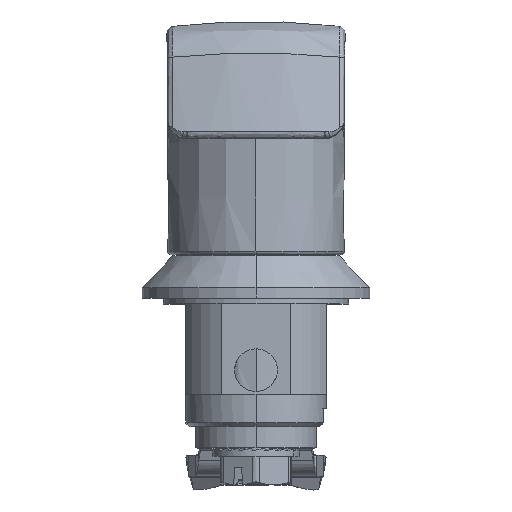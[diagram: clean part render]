
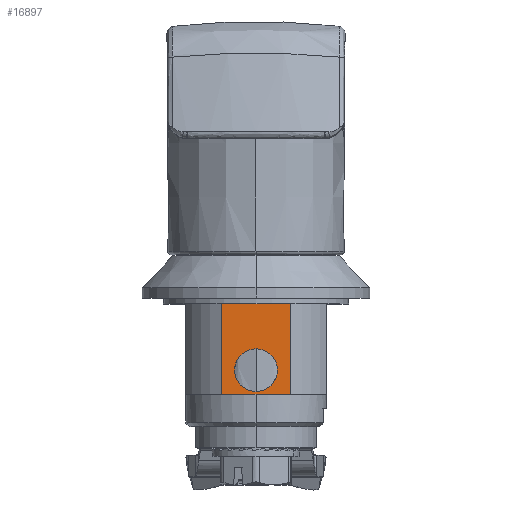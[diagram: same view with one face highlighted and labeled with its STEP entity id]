
A CAD part, top view. The second image highlights one B-rep face of the part: STEP entity #16897.
In plain terms, the highlighted planar face has unit normal (0, 0, 1) as drawn and (1, 0, 0) by its records, which use the part's own axes.
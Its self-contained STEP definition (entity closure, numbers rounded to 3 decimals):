
#445 = ORIENTED_EDGE ( 'NONE', *, *, #7169, .F. ) ;
#755 = CARTESIAN_POINT ( 'NONE',  ( 9.875, 0., 7.9 ) ) ;
#1492 = CARTESIAN_POINT ( 'NONE',  ( 9.875, 0., 4.5 ) ) ;
#3756 = EDGE_CURVE ( 'NONE', #19324, #23472, #16134, .T. ) ;
#3872 = CARTESIAN_POINT ( 'NONE',  ( 9.875, -4.846, 18. ) ) ;
#4527 = ORIENTED_EDGE ( 'NONE', *, *, #15337, .F. ) ;
#5060 = VECTOR ( 'NONE', #7218, 1000. ) ;
#5163 = ORIENTED_EDGE ( 'NONE', *, *, #11850, .T. ) ;
#5374 = VERTEX_POINT ( 'NONE', #27527 ) ;
#5605 = FACE_BOUND ( 'NONE', #20760, .T. ) ;
#6192 = AXIS2_PLACEMENT_3D ( 'NONE', #27058, #18720, #16557 ) ;
#7169 = EDGE_CURVE ( 'NONE', #23277, #14088, #8724, .T. ) ;
#7218 = DIRECTION ( 'NONE',  ( 0., 0., -1. ) ) ;
#8724 = LINE ( 'NONE', #15193, #27193 ) ;
#9486 = CARTESIAN_POINT ( 'NONE',  ( 9.875, 0., 4.9 ) ) ;
#9658 = EDGE_CURVE ( 'NONE', #23277, #25829, #20183, .T. ) ;
#9967 = FACE_OUTER_BOUND ( 'NONE', #26926, .T. ) ;
#11134 = VECTOR ( 'NONE', #24644, 1000. ) ;
#11147 = CARTESIAN_POINT ( 'NONE',  ( 9.875, 0., 4.5 ) ) ;
#11850 = EDGE_CURVE ( 'NONE', #19297, #5374, #21708, .T. ) ;
#11990 = ORIENTED_EDGE ( 'NONE', *, *, #26936, .T. ) ;
#12328 = DIRECTION ( 'NONE',  ( 0., 1., 0. ) ) ;
#12381 = DIRECTION ( 'NONE',  ( 0., 1., 0. ) ) ;
#12514 = CARTESIAN_POINT ( 'NONE',  ( 9.875, -27.8, 18. ) ) ;
#12557 = AXIS2_PLACEMENT_3D ( 'NONE', #755, #16871, #19300 ) ;
#12935 = DIRECTION ( 'NONE',  ( 0., 0., 1. ) ) ;
#14020 = VECTOR ( 'NONE', #12381, 1000. ) ;
#14021 = ORIENTED_EDGE ( 'NONE', *, *, #9658, .T. ) ;
#14088 = VERTEX_POINT ( 'NONE', #3872 ) ;
#15193 = CARTESIAN_POINT ( 'NONE',  ( 9.875, -4.846, 18. ) ) ;
#15282 = CARTESIAN_POINT ( 'NONE',  ( 9.875, -4.846, 4.5 ) ) ;
#15337 = EDGE_CURVE ( 'NONE', #14088, #19324, #28013, .T. ) ;
#15361 = AXIS2_PLACEMENT_3D ( 'NONE', #16819, #28009, #12935 ) ;
#15765 = DIRECTION ( 'NONE',  ( 0., 0., 1. ) ) ;
#16134 = LINE ( 'NONE', #26939, #5060 ) ;
#16354 = ORIENTED_EDGE ( 'NONE', *, *, #25172, .T. ) ;
#16557 = DIRECTION ( 'NONE',  ( 0., 0., 1. ) ) ;
#16819 = CARTESIAN_POINT ( 'NONE',  ( 9.875, 0., 7.9 ) ) ;
#16871 = DIRECTION ( 'NONE',  ( -1., 0., 0. ) ) ;
#16897 = ADVANCED_FACE ( 'NONE', ( #5605, #9967 ), #27617, .F. ) ;
#17005 = CARTESIAN_POINT ( 'NONE',  ( 9.875, 0., 4.5 ) ) ;
#18720 = DIRECTION ( 'NONE',  ( -1., 0., 0. ) ) ;
#19297 = VERTEX_POINT ( 'NONE', #9486 ) ;
#19300 = DIRECTION ( 'NONE',  ( 0., 0., 1. ) ) ;
#19324 = VERTEX_POINT ( 'NONE', #20521 ) ;
#20183 = LINE ( 'NONE', #11147, #11134 ) ;
#20391 = CIRCLE ( 'NONE', #15361, 3. ) ;
#20521 = CARTESIAN_POINT ( 'NONE',  ( 9.875, 4.846, 18. ) ) ;
#20760 = EDGE_LOOP ( 'NONE', ( #11990, #5163 ) ) ;
#21708 = CIRCLE ( 'NONE', #12557, 3. ) ;
#23073 = LINE ( 'NONE', #1492, #25902 ) ;
#23277 = VERTEX_POINT ( 'NONE', #15282 ) ;
#23472 = VERTEX_POINT ( 'NONE', #25968 ) ;
#24644 = DIRECTION ( 'NONE',  ( 0., 1., 0. ) ) ;
#25172 = EDGE_CURVE ( 'NONE', #25829, #23472, #23073, .T. ) ;
#25780 = ORIENTED_EDGE ( 'NONE', *, *, #3756, .F. ) ;
#25829 = VERTEX_POINT ( 'NONE', #17005 ) ;
#25902 = VECTOR ( 'NONE', #12328, 1000. ) ;
#25968 = CARTESIAN_POINT ( 'NONE',  ( 9.875, 4.846, 4.5 ) ) ;
#26926 = EDGE_LOOP ( 'NONE', ( #4527, #445, #14021, #16354, #25780 ) ) ;
#26936 = EDGE_CURVE ( 'NONE', #5374, #19297, #20391, .T. ) ;
#26939 = CARTESIAN_POINT ( 'NONE',  ( 9.875, 4.846, 18. ) ) ;
#27058 = CARTESIAN_POINT ( 'NONE',  ( 9.875, -27.8, 3.606 ) ) ;
#27193 = VECTOR ( 'NONE', #15765, 1000. ) ;
#27527 = CARTESIAN_POINT ( 'NONE',  ( 9.875, 0., 10.9 ) ) ;
#27617 = PLANE ( 'NONE',  #6192 ) ;
#28009 = DIRECTION ( 'NONE',  ( -1., 0., 0. ) ) ;
#28013 = LINE ( 'NONE', #12514, #14020 ) ;
